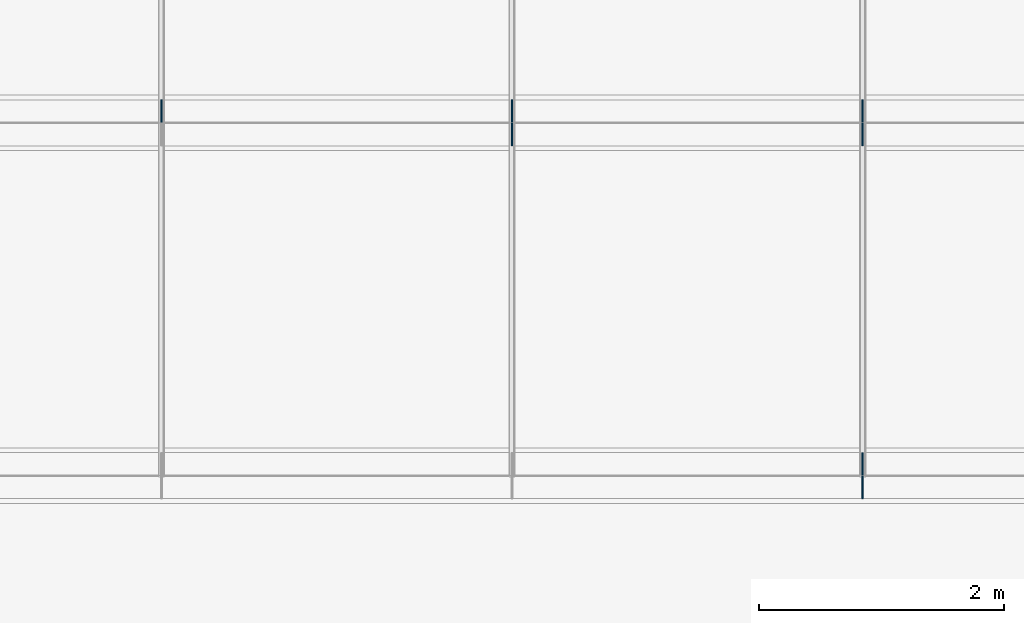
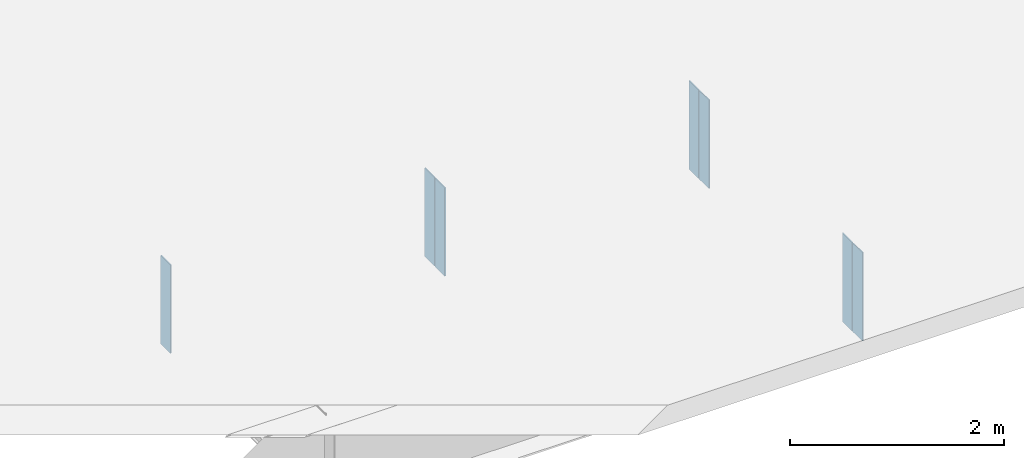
# One storey, part 6 of 12: 7 plates.
"""IFC4 building model written with IfcOpenShell, lengths in metres."""

from ifc_helpers import new_model, si_unit, frame, origin, origin_with_axes, origin_2d_with_axis, place, context, subcontext, project, spatial, rectangle, extrude, element, save


model = new_model("IFC4")

# Units and contexts
model_context = context("Model", 3, precision=1e-05, world=origin())
body_context = subcontext(model_context, "Body", "Model", "MODEL_VIEW")
ifc_project = project(units=[si_unit("LENGTHUNIT", "METRE"), si_unit("AREAUNIT", "SQUARE_METRE"), si_unit("VOLUMEUNIT", "CUBIC_METRE"), si_unit("PLANEANGLEUNIT", "RADIAN")], contexts=[model_context])

# Site, building, storey
site_placement = place(None, origin_with_axes())
site = spatial("IfcSite", under=ifc_project, at=site_placement, Name="Default Site")
building_placement = place(site_placement, origin_with_axes())
building = spatial("IfcBuilding", under=site, at=building_placement, Name="Bridge Structure")
storey_placement = place(building_placement, origin_with_axes())
storey = spatial("IfcBuildingStorey", under=building, at=storey_placement, Name="Superstructure")

# Plates
for number, where, z_axis, x_axis, name in (
    (1, (14.285, -4.2162500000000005, -0.506), (0.0, 0.0, 1.0), (1.0, 0.0, 0.0), "Intermediate Stiffener 1"),
    (2, (14.285, -4.40875, -0.506), (0.0, 0.0, 1.0), (1.0, 0.0, 0.0), "Intermediate Stiffener 1"),
    (3, (8.571, -1.34125, -0.506), (0.0, 0.0, 1.0), (1.0, 0.0, 0.0), "Intermediate Stiffener 2"),
    (4, (11.428, -1.34125, -0.506), (0.0, 0.0, 1.0), (1.0, 0.0, 0.0), "Intermediate Stiffener 2"),
    (5, (11.428, -1.53375, -0.506), (0.0, 0.0, 1.0), (1.0, 0.0, 0.0), "Intermediate Stiffener 2"),
    (6, (14.285, -1.34125, -0.506), (0.0, 0.0, 1.0), (1.0, 0.0, 0.0), "Intermediate Stiffener 2"),
    (7, (14.285, -1.53375, -0.506), (0.0, 0.0, 1.0), (1.0, 0.0, 0.0), "Intermediate Stiffener 2"),
):
    element("IfcPlate", number, at=place(storey_placement, frame(where, z_axis=z_axis, x_axis=x_axis)), inside=storey, Name=name, context=body_context, shape_type="SweptSolid", body=[
        extrude(rectangle(XDim=0.012, YDim=0.1825, at=origin_2d_with_axis()), origin_with_axes(), (0.0, 0.0, 1.0), 1.012),
    ])

save(model, "model.ifc")
